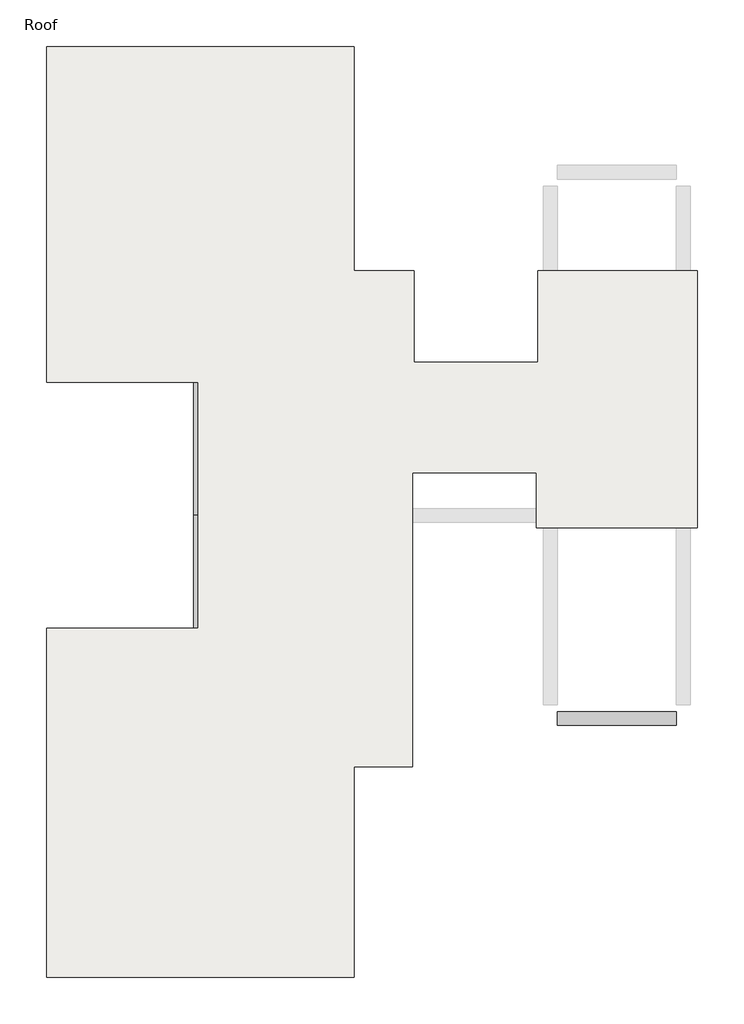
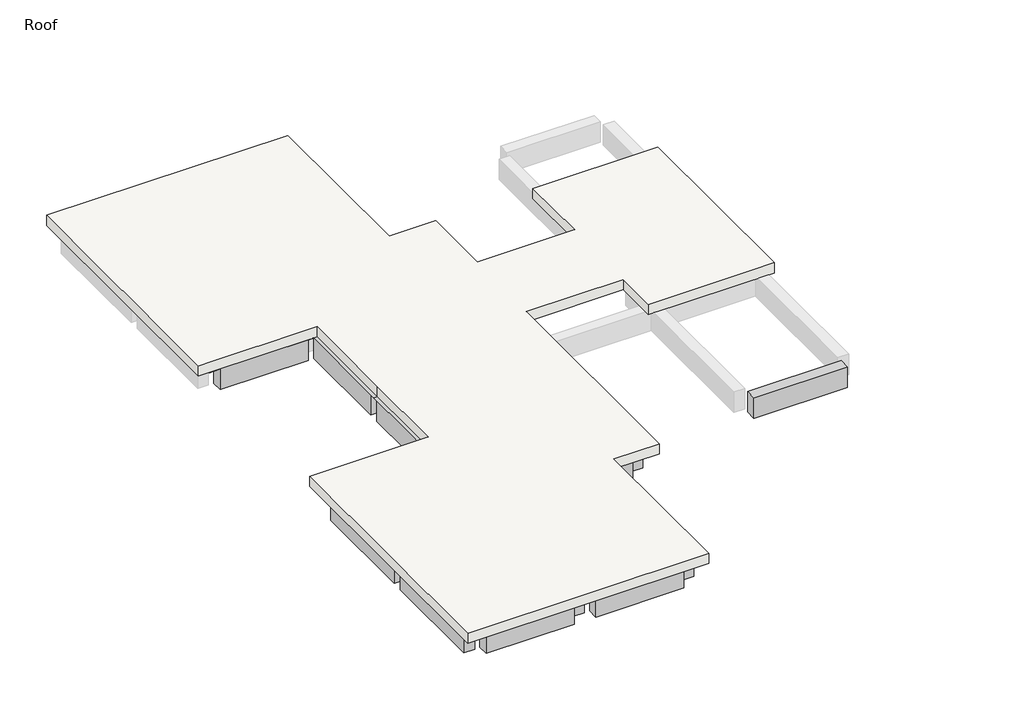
# One storey, part 1 of 2: 19 beams, 1 slab.
"""IFC4 building model written with IfcOpenShell, lengths in millimetres."""

import ifcopenshell
import ifcopenshell.guid

model = None  # the IFC model being written
_history = None  # IfcOwnerHistory: only IFC2X3 demands one
_inside = {}  # id of a spatial element -> (the spatial element, [elements in it])
_under = {}  # id of a project, library or spatial element -> (it, [spatial elements below it])
_declared = {}  # id of a project -> (the project, [libraries it declares])
_typed = {}  # id of a type object -> (the type object, [elements of that type])
_made_of = {}  # id of a material, layer set ... -> (it, [elements and type objects made of it])


def new_model(schema):
    """Start an empty IFC model of exactly this schema.

    Asked for "IFC4X3", IfcOpenShell would pick the latest addendum, in which some entities
    have other attributes; the version numbers below select the first issue.
    IFC2X3 requires an IfcOwnerHistory on every rooted entity: one is made here for all.
    """
    global model, _history
    if schema == "IFC4X3":
        model = ifcopenshell.file(schema_version=(4, 3, 0, 0))
    else:
        model = ifcopenshell.file(schema=schema)
    _inside.clear()
    _under.clear()
    _declared.clear()
    _typed.clear()
    _made_of.clear()
    _history = None
    if model.schema == "IFC2X3":
        org = make("IfcOrganization", Name="unknown")
        user = make(
            "IfcPersonAndOrganization",
            ThePerson=make("IfcPerson", FamilyName="unknown"),
            TheOrganization=org,
        )
        app = make(
            "IfcApplication",
            ApplicationDeveloper=org,
            Version="unknown",
            ApplicationFullName="unknown",
            ApplicationIdentifier="unknown",
        )
        _history = make(
            "IfcOwnerHistory",
            OwningUser=user,
            OwningApplication=app,
            ChangeAction="ADDED",
            CreationDate=0,
        )
    return model


def make(cls, **values):
    """One entity of the class cls with the attributes given. An attribute that is None is left unset."""
    return model.create_entity(
        cls, **{name: value for name, value in values.items() if value is not None}
    )


def rooted(cls, **values):
    """An entity with a GlobalId (a new one), such as an element, a storey or a relation."""
    return make(cls, GlobalId=ifcopenshell.guid.new(), OwnerHistory=_history, **values)


def si_unit(unit_type, name, prefix=None):
    """IfcSIUnit, for example si_unit("LENGTHUNIT", "METRE", prefix="MILLI")."""
    return make("IfcSIUnit", UnitType=unit_type, Prefix=prefix, Name=name)


def assignment(units):
    """IfcUnitAssignment: the units of a project."""
    return None if units is None else make("IfcUnitAssignment", Units=units)


def point(xyz):
    """IfcCartesianPoint."""
    return None if xyz is None else make("IfcCartesianPoint", Coordinates=xyz)


def direction(xyz):
    """IfcDirection."""
    return None if xyz is None else make("IfcDirection", DirectionRatios=xyz)


def frame(location, z_axis=None, x_axis=None):
    """IfcAxis2Placement3D, a coordinate frame: its origin and axes. An axis left out is left unset."""
    return make(
        "IfcAxis2Placement3D",
        Location=point(location),
        Axis=direction(z_axis),
        RefDirection=direction(x_axis),
    )


def origin():
    """The frame at (0, 0, 0) with its axes left unset."""
    return frame((0.0, 0.0, 0.0))


def place(relative_to, where):
    """IfcLocalPlacement: puts the frame where relative to a parent placement (None: the world)."""
    return make(
        "IfcLocalPlacement", PlacementRelTo=relative_to, RelativePlacement=where
    )


def context(
    kind, dimensions, precision=None, world=None, true_north=None, identifier=None
):
    """IfcGeometricRepresentationContext, for example the 3D "Model" context."""
    return make(
        "IfcGeometricRepresentationContext",
        ContextIdentifier=identifier,
        ContextType=kind,
        CoordinateSpaceDimension=dimensions,
        Precision=precision,
        WorldCoordinateSystem=world,
        TrueNorth=true_north,
    )


def project(units=None, contexts=None):
    """IfcProject with its units and contexts."""
    return rooted(
        "IfcProject",
        Name="project",
        RepresentationContexts=contexts,
        UnitsInContext=assignment(units),
    )


def spatial(cls, under=None, at=None, **own):
    """A site, building, storey or space (cls), placed at a placement, below another one or the project."""
    s = rooted(cls, ObjectPlacement=at, **own)
    if under is not None:
        _under.setdefault(under.id(), (under, []))[1].append(s)
    return s


def polyline(points):
    """IfcPolyline through the points."""
    return make("IfcPolyline", Points=[point(p) for p in points])


def outline(outer, holes=None, kind="AREA"):
    """IfcArbitraryClosedProfileDef: a profile drawn as a closed curve; with holes, ...WithVoids."""
    if holes is None:
        return make("IfcArbitraryClosedProfileDef", ProfileType=kind, OuterCurve=outer)
    return make(
        "IfcArbitraryProfileDefWithVoids",
        ProfileType=kind,
        OuterCurve=outer,
        InnerCurves=holes,
    )


def extrude(swept, where, along, depth):
    """IfcExtrudedAreaSolid: the profile swept, set in the frame where, extruded along a direction by depth."""
    return make(
        "IfcExtrudedAreaSolid",
        SweptArea=swept,
        Position=where,
        ExtrudedDirection=direction(along),
        Depth=depth,
    )


def faces_of(points, faces, orient=None, outer=None):
    """IfcFace entities. A face is a list of loops; a loop is a list of indices into points, from 0.

    orient and outer hold one flag for each loop. By default every Orientation is true, the
    first loop of a face is its IfcFaceOuterBound and the others are IfcFaceBound.
    """
    made = []
    for i, loops in enumerate(faces):
        bounds = []
        for j, loop in enumerate(loops):
            is_outer = j == 0 if outer is None else outer[i][j]
            bounds.append(
                make(
                    "IfcFaceOuterBound" if is_outer else "IfcFaceBound",
                    Bound=make("IfcPolyLoop", Polygon=[points[k] for k in loop]),
                    Orientation=True if orient is None else orient[i][j],
                )
            )
        made.append(make("IfcFace", Bounds=bounds))
    return made


def faceted_brep(points, faces, orient=None, outer=None, voids=None):
    """IfcFacetedBrep: a solid bounded by flat faces; with voids (closed shells), ...WithVoids."""
    shared = [point(p) for p in points]
    hull = make("IfcClosedShell", CfsFaces=faces_of(shared, faces, orient, outer))
    if voids is None:
        return make("IfcFacetedBrep", Outer=hull)
    return make(
        "IfcFacetedBrepWithVoids",
        Outer=hull,
        Voids=[
            make(cls, CfsFaces=faces_of(shared, fs, o, b)) for cls, fs, o, b in voids
        ],
    )


def shape(context_of_items, identifier, shape_type, items):
    """IfcShapeRepresentation: the items that make up one representation, for example the "Body"."""
    return make(
        "IfcShapeRepresentation",
        ContextOfItems=context_of_items,
        RepresentationIdentifier=identifier,
        RepresentationType=shape_type,
        Items=items,
    )


def made_of(thing, what):
    """Note that an element or type object is made of a material, layer set ...; save() writes the relation."""
    if what is not None:
        _made_of.setdefault(what.id(), (what, []))[1].append(thing)
    return thing


def element(
    cls,
    number,
    at=None,
    inside=None,
    cuts=None,
    type_object=None,
    material=None,
    context=None,
    identifier="Body",
    shape_type=None,
    held_by="IfcProductDefinitionShape",
    body=None,
    shapes=None,
    **own,
):
    """One element of the class cls, such as IfcWall. Its Tag is "e" and its number.

    at: its placement. inside: the storey or other place that contains it. cuts: it is an
    opening in that element (IfcRelVoidsElement). A single representation is given by context,
    identifier, shape_type and body (its items); several are given by shapes. held_by: the class
    of the entity that holds the representations. save() writes the other relations.
    """
    e = rooted(cls, Tag="e%d" % number, ObjectPlacement=at, **own)
    if body is not None:
        shapes = [shape(context, identifier, shape_type, body)]
    if shapes is not None:
        e.Representation = make(held_by, Representations=shapes)
    if inside is not None:
        _inside.setdefault(inside.id(), (inside, []))[1].append(e)
    if cuts is not None:
        rooted(
            "IfcRelVoidsElement", RelatingBuildingElement=cuts, RelatedOpeningElement=e
        )
    if type_object is not None:
        _typed.setdefault(type_object.id(), (type_object, []))[1].append(e)
    return made_of(e, material)


def aggregate(whole, parts):
    """IfcRelAggregates: a whole, such as a stair, and the parts it consists of."""
    return rooted("IfcRelAggregates", RelatingObject=whole, RelatedObjects=parts)


def save(model, path):
    """Write the relations noted so far, then the file.

    IfcRelAggregates (storeys below a building ...), IfcRelContainedInSpatialStructure (elements
    in a storey), IfcRelDefinesByType, IfcRelAssociatesMaterial and IfcRelDeclares: one each for
    every whole, place, type object, material and project.
    """
    for whole, parts in _under.values():
        aggregate(whole, parts)
    for where, things in _inside.values():
        rooted(
            "IfcRelContainedInSpatialStructure",
            RelatedElements=things,
            RelatingStructure=where,
        )
    for kind, things in _typed.values():
        rooted("IfcRelDefinesByType", RelatedObjects=things, RelatingType=kind)
    for what, things in _made_of.values():
        rooted("IfcRelAssociatesMaterial", RelatedObjects=things, RelatingMaterial=what)
    for by, libraries in _declared.values():
        rooted("IfcRelDeclares", RelatingContext=by, RelatedDefinitions=libraries)
    model.write(path)


model = new_model("IFC4")

# Units and contexts
model_context = context("Model", 3, world=origin())
ifc_project = project(units=[si_unit("LENGTHUNIT", "METRE", prefix="MILLI")], contexts=[model_context])

# Site, building, storey
site = spatial("IfcSite", under=ifc_project)
building = spatial("IfcBuilding", under=site)
storey = spatial("IfcBuildingStorey", under=building, Name="Roof", Elevation=7620.0)

# Beams
placement = place(None, origin())
element("IfcBeam", 1, ObjectType="M_Concrete-Rectangular Beam : 300 x 600mm", at=placement, inside=storey, context=model_context, shape_type="Brep", body=[
    faceted_brep([(-9933.3472303, 7869.016665, 7320.0), (-9933.3472303, 7719.016665, 7320.0), (-9933.3472303, 4821.016665, 7320.0), (-9783.3472303, 4821.016665, 7320.0), (-9783.3472303, 4971.016665, 7320.0), (-9633.3472303, 4971.016665, 7320.0), (-9633.3472303, 7719.016665, 7320.0), (-9633.3472303, 7869.016665, 7320.0), (-9783.3472303, 7869.016665, 7320.0), (-9633.3472303, 7719.016665, 6720.0), (-9633.3472303, 7719.016665, 7315.2), (-9633.3472303, 7869.016665, 7315.2), (-9633.3472303, 4971.016665, 6720.0), (-9933.3472303, 4971.016665, 6720.0), (-9933.3472303, 7719.016665, 6720.0), (-9933.3472303, 7869.016665, 7315.2), (-9933.3472303, 7719.016665, 7315.2), (-9933.3472303, 4971.016665, 7315.2), (-9933.3472303, 4821.016665, 7315.2), (-9783.3472303, 4971.016665, 7315.2), (-9783.3472303, 7869.016665, 7315.2), (-9783.3472303, 4821.016665, 7315.2)], [[[0, 1, 2, 3, 4, 5, 6, 7, 8]], [[9, 10, 11, 7, 6, 5, 12]], [[12, 13, 14, 9]], [[2, 1, 0, 15, 16, 14, 13, 17, 18]], [[5, 4, 19, 17, 13, 12]], [[16, 10, 9, 14]], [[10, 16, 15, 20, 11]], [[17, 19, 21, 18]], [[0, 8, 7, 11, 20, 15]], [[3, 2, 18, 21]], [[4, 3, 21, 19]]]),
])
element("IfcBeam", 2, ObjectType="M_Concrete-Rectangular Beam : 300 x 600mm", at=placement, inside=storey, context=model_context, shape_type="Brep", body=[
    faceted_brep([(-12681.3472303, 8019.016665, 7320.0), (-12681.3472303, 7869.016665, 7320.0), (-12831.3472303, 7869.016665, 7320.0), (-12831.3472303, 7719.016665, 7320.0), (-9933.3472303, 7719.016665, 7320.0), (-9933.3472303, 7869.016665, 7320.0), (-9933.3472303, 8019.016665, 7320.0), (-12531.3472303, 7719.016665, 7315.2), (-12531.3472303, 7719.016665, 6720.0), (-10083.3472303, 7719.016665, 6720.0), (-10083.3472303, 7719.016665, 7315.2), (-9933.3472303, 7719.016665, 7315.2), (-12831.3472303, 7719.016665, 7315.2), (-12531.3472303, 8019.016665, 6720.0), (-10083.3472303, 8019.016665, 6720.0), (-12681.3472303, 8019.016665, 7315.2), (-9933.3472303, 8019.016665, 7315.2), (-10083.3472303, 8019.016665, 7315.2), (-12531.3472303, 8019.016665, 7315.2), (-9933.3472303, 7869.016665, 7315.2), (-12681.3472303, 7869.016665, 7315.2), (-12831.3472303, 7869.016665, 7315.2)], [[[0, 1, 2, 3, 4, 5, 6]], [[7, 8, 9, 10, 11, 4, 3, 12]], [[8, 13, 14, 9]], [[15, 0, 6, 16, 17, 14, 13, 18]], [[6, 5, 4, 11, 19, 16]], [[1, 0, 15, 20]], [[7, 18, 13, 8]], [[18, 7, 12, 21, 20, 15]], [[17, 10, 9, 14]], [[10, 17, 16, 19, 11]], [[3, 2, 21, 12]], [[2, 1, 20, 21]]]),
])
element("IfcBeam", 3, ObjectType="M_Concrete-Rectangular Beam : 300 x 600mm", at=placement, inside=storey, context=model_context, shape_type="Brep", body=[
    faceted_brep([(-5366.3472303, 1773.016665, 7320.0), (-5366.3472303, 4671.016665, 7320.0), (-5366.3472303, 4821.016665, 7320.0), (-5516.3472303, 4821.016665, 7320.0), (-5516.3472303, 4671.016665, 7320.0), (-5666.3472303, 4671.016665, 7320.0), (-5666.3472303, 1923.016665, 7320.0), (-5666.3472303, 1773.016665, 7320.0), (-5516.3472303, 1773.016665, 7320.0), (-5666.3472303, 4671.016665, 6720.0), (-5666.3472303, 1923.016665, 6720.0), (-5666.3472303, 1923.016665, 7315.2), (-5666.3472303, 1773.016665, 7315.2), (-5366.3472303, 4671.016665, 6720.0), (-5366.3472303, 1923.016665, 6720.0), (-5366.3472303, 1773.016665, 7315.2), (-5366.3472303, 1923.016665, 7315.2), (-5366.3472303, 4671.016665, 7315.2), (-5366.3472303, 4821.016665, 7315.2), (-5516.3472303, 4671.016665, 7315.2), (-5516.3472303, 4821.016665, 7315.2), (-5516.3472303, 1773.016665, 7315.2)], [[[0, 1, 2, 3, 4, 5, 6, 7, 8]], [[7, 6, 5, 9, 10, 11, 12]], [[9, 13, 14, 10]], [[2, 1, 0, 15, 16, 14, 13, 17, 18]], [[5, 4, 19, 17, 13, 9]], [[17, 19, 20, 18]], [[16, 11, 10, 14]], [[11, 16, 15, 21, 12]], [[3, 2, 18, 20]], [[0, 8, 7, 12, 21, 15]], [[4, 3, 20, 19]]]),
])
element("IfcBeam", 4, ObjectType="M_Concrete-Rectangular Beam : 300 x 600mm", at=placement, inside=storey, context=model_context, shape_type="Brep", body=[
    faceted_brep([(-9783.3472303, 1623.016665, 7320.0), (-9633.3472303, 1623.016665, 7320.0), (-5666.3472303, 1623.016665, 7320.0), (-5516.3472303, 1623.016665, 7320.0), (-5516.3472303, 1773.016665, 7320.0), (-5666.3472303, 1773.016665, 7320.0), (-5666.3472303, 1923.016665, 7320.0), (-9633.3472303, 1923.016665, 7320.0), (-9783.3472303, 1923.016665, 7320.0), (-9783.3472303, 1773.016665, 7320.0), (-9483.3472303, 1923.016665, 6720.0), (-9483.3472303, 1923.016665, 7315.2), (-9783.3472303, 1923.016665, 7315.2), (-5666.3472303, 1923.016665, 7315.2), (-5816.3472303, 1923.016665, 7315.2), (-5816.3472303, 1923.016665, 6720.0), (-9483.3472303, 1623.016665, 6720.0), (-5816.3472303, 1623.016665, 6720.0), (-9783.3472303, 1623.016665, 7315.2), (-9483.3472303, 1623.016665, 7315.2), (-5816.3472303, 1623.016665, 7315.2), (-5516.3472303, 1623.016665, 7315.2), (-5666.3472303, 1773.016665, 7315.2), (-9783.3472303, 1773.016665, 7315.2), (-5516.3472303, 1773.016665, 7315.2)], [[[0, 1, 2, 3, 4, 5, 6, 7, 8, 9]], [[10, 11, 12, 8, 7, 6, 13, 14, 15]], [[16, 10, 15, 17]], [[3, 2, 1, 0, 18, 19, 16, 17, 20, 21]], [[6, 5, 22, 13]], [[19, 11, 10, 16]], [[11, 19, 18, 23, 12]], [[14, 20, 17, 15]], [[20, 14, 13, 22, 24, 21]], [[0, 9, 8, 12, 23, 18]], [[4, 3, 21, 24]], [[5, 4, 24, 22]]]),
])
element("IfcBeam", 5, ObjectType="M_Concrete-Rectangular Beam : 300 x 600mm", at=placement, inside=storey, context=model_context, shape_type="Brep", body=[
    faceted_brep([(-9933.3472303, 4821.016665, 7320.0), (-9933.3472303, 1923.016665, 7320.0), (-9933.3472303, 1773.016665, 7320.0), (-9783.3472303, 1773.016665, 7320.0), (-9783.3472303, 1923.016665, 7320.0), (-9633.3472303, 1923.016665, 7320.0), (-9633.3472303, 4671.016665, 7320.0), (-9783.3472303, 4671.016665, 7320.0), (-9783.3472303, 4821.016665, 7320.0), (-9633.3472303, 1923.016665, 6720.0), (-9633.3472303, 4671.016665, 6720.0), (-9933.3472303, 1923.016665, 6720.0), (-9933.3472303, 4671.016665, 6720.0), (-9933.3472303, 4821.016665, 7315.2), (-9933.3472303, 4671.016665, 7315.2), (-9933.3472303, 1923.016665, 7315.2), (-9933.3472303, 1773.016665, 7315.2), (-9783.3472303, 4671.016665, 7315.2), (-9783.3472303, 1923.016665, 7315.2), (-9783.3472303, 4821.016665, 7315.2), (-9783.3472303, 1773.016665, 7315.2)], [[[0, 1, 2, 3, 4, 5, 6, 7, 8]], [[6, 5, 9, 10]], [[9, 11, 12, 10]], [[2, 1, 0, 13, 14, 12, 11, 15, 16]], [[7, 6, 10, 12, 14, 17]], [[5, 4, 18, 15, 11, 9]], [[17, 14, 13, 19]], [[15, 18, 20, 16]], [[0, 8, 19, 13]], [[3, 2, 16, 20]], [[8, 7, 17, 19]], [[4, 3, 20, 18]]]),
])
element("IfcBeam", 6, ObjectType="M_Concrete-Rectangular Beam : 300 x 600mm", at=placement, inside=storey, context=model_context, shape_type="Brep", body=[
    faceted_brep([(-5366.3472303, -360.983335, 7320.0), (-5366.3472303, 1773.016665, 7320.0), (-5516.3472303, 1773.016665, 7320.0), (-5516.3472303, 1623.016665, 7320.0), (-5666.3472303, 1623.016665, 7320.0), (-5666.3472303, -210.983335, 7320.0), (-5666.3472303, -360.983335, 7320.0), (-5516.3472303, -360.983335, 7320.0), (-5666.3472303, 1623.016665, 6720.0), (-5666.3472303, -210.983335, 6720.0), (-5666.3472303, -210.983335, 7315.2), (-5666.3472303, -360.983335, 7315.2), (-5366.3472303, 1623.016665, 6720.0), (-5366.3472303, -210.983335, 6720.0), (-5366.3472303, -360.983335, 7315.2), (-5366.3472303, -210.983335, 7315.2), (-5366.3472303, 1623.016665, 7315.2), (-5366.3472303, 1773.016665, 7315.2), (-5516.3472303, 1623.016665, 7315.2), (-5516.3472303, 1773.016665, 7315.2), (-5516.3472303, -360.983335, 7315.2)], [[[0, 1, 2, 3, 4, 5, 6, 7]], [[6, 5, 4, 8, 9, 10, 11]], [[8, 12, 13, 9]], [[1, 0, 14, 15, 13, 12, 16, 17]], [[4, 3, 18, 16, 12, 8]], [[16, 18, 19, 17]], [[15, 10, 9, 13]], [[10, 15, 14, 20, 11]], [[2, 1, 17, 19]], [[0, 7, 6, 11, 20, 14]], [[3, 2, 19, 18]]]),
])
element("IfcBeam", 7, ObjectType="M_Concrete-Rectangular Beam : 300 x 600mm", at=placement, inside=storey, context=model_context, shape_type="Brep", body=[
    faceted_brep([(-6885.3472303, -510.983335, 7320.0), (-6585.3472303, -510.983335, 7320.0), (-5516.3472303, -510.983335, 7320.0), (-5516.3472303, -360.983335, 7320.0), (-5666.3472303, -360.983335, 7320.0), (-5666.3472303, -210.983335, 7320.0), (-6885.3472303, -210.983335, 7320.0), (-6885.3472303, -210.983335, 6720.0), (-5666.3472303, -210.983335, 7315.2), (-5816.3472303, -210.983335, 7315.2), (-5816.3472303, -210.983335, 6720.0), (-6885.3472303, -510.983335, 6720.0), (-5816.3472303, -510.983335, 6720.0), (-6585.3472303, -510.983335, 6720.0), (-5816.3472303, -510.983335, 7315.2), (-5516.3472303, -510.983335, 7315.2), (-5516.3472303, -360.983335, 7315.2), (-5666.3472303, -360.983335, 7315.2)], [[[0, 1, 2, 3, 4, 5, 6]], [[7, 6, 5, 8, 9, 10]], [[11, 7, 10, 12, 13]], [[2, 1, 0, 11, 13, 12, 14, 15]], [[3, 2, 15, 16]], [[0, 6, 7, 11]], [[5, 4, 17, 8]], [[4, 3, 16, 17]], [[9, 14, 12, 10]], [[14, 9, 8, 17, 16, 15]]]),
])
element("IfcBeam", 8, ObjectType="M_Concrete-Rectangular Beam : 300 x 600mm", at=placement, inside=storey, context=model_context, shape_type="Brep", body=[
    faceted_brep([(-6885.3472303, -1579.983335, 7320.0), (-6735.3472303, -1579.983335, 7320.0), (-6585.3472303, -1579.983335, 7320.0), (-6585.3472303, -510.983335, 7320.0), (-6885.3472303, -510.983335, 7320.0), (-6885.3472303, -1429.983335, 7320.0), (-6885.3472303, -510.983335, 6720.0), (-6885.3472303, -1429.983335, 6720.0), (-6885.3472303, -1429.983335, 7315.2), (-6885.3472303, -1579.983335, 7315.2), (-6585.3472303, -510.983335, 6720.0), (-6585.3472303, -1429.983335, 6720.0), (-6585.3472303, -1579.983335, 7315.2), (-6585.3472303, -1429.983335, 7315.2), (-6735.3472303, -1579.983335, 7315.2)], [[[0, 1, 2, 3, 4, 5]], [[0, 5, 4, 6, 7, 8, 9]], [[6, 10, 11, 7]], [[3, 2, 12, 13, 11, 10]], [[2, 1, 0, 9, 14, 12]], [[4, 3, 10, 6]], [[13, 8, 7, 11]], [[8, 13, 12, 14, 9]]]),
])
element("IfcBeam", 9, ObjectType="M_Concrete-Rectangular Beam : 300 x 600mm", at=placement, inside=storey, context=model_context, shape_type="Brep", body=[
    faceted_brep([(-6585.3472303, -4932.983335, 7320.0), (-6585.3472303, -1579.983335, 7320.0), (-6735.3472303, -1579.983335, 7320.0), (-6735.3472303, -1729.983335, 7320.0), (-6885.3472303, -1729.983335, 7320.0), (-6885.3472303, -4782.983335, 7320.0), (-6885.3472303, -4932.983335, 7320.0), (-6735.3472303, -4932.983335, 7320.0), (-6885.3472303, -1729.983335, 6720.0), (-6885.3472303, -4782.983335, 6720.0), (-6885.3472303, -4782.983335, 7315.2), (-6885.3472303, -4932.983335, 7315.2), (-6585.3472303, -1729.983335, 6720.0), (-6585.3472303, -4782.983335, 6720.0), (-6585.3472303, -4932.983335, 7315.2), (-6585.3472303, -4782.983335, 7315.2), (-6585.3472303, -1729.983335, 7315.2), (-6585.3472303, -1579.983335, 7315.2), (-6735.3472303, -1579.983335, 7315.2), (-6735.3472303, -4932.983335, 7315.2), (-6735.3472303, -1729.983335, 7315.2)], [[[0, 1, 2, 3, 4, 5, 6, 7]], [[4, 8, 9, 10, 11, 6, 5]], [[9, 8, 12, 13]], [[1, 0, 14, 15, 13, 12, 16, 17]], [[1, 17, 18, 2]], [[0, 7, 6, 11, 19, 14]], [[4, 3, 20, 16, 12, 8]], [[17, 16, 20, 18]], [[15, 10, 9, 13]], [[10, 15, 14, 19, 11]], [[20, 3, 2, 18]]]),
])
element("IfcBeam", 10, ObjectType="M_Concrete-Rectangular Beam : 300 x 600mm", at=placement, inside=storey, context=model_context, shape_type="Brep", body=[
    faceted_brep([(-9783.3472303, -5082.983335, 7320.0), (-6735.3472303, -5082.983335, 7320.0), (-6735.3472303, -4932.983335, 7320.0), (-6885.3472303, -4932.983335, 7320.0), (-6885.3472303, -4782.983335, 7320.0), (-9633.3472303, -4782.983335, 7320.0), (-9783.3472303, -4782.983335, 7320.0), (-9783.3472303, -4932.983335, 7320.0), (-9483.3472303, -4782.983335, 6720.0), (-9483.3472303, -4782.983335, 7315.2), (-9783.3472303, -4782.983335, 7315.2), (-6885.3472303, -4782.983335, 7315.2), (-7035.3472303, -4782.983335, 7315.2), (-7035.3472303, -4782.983335, 6720.0), (-9483.3472303, -5082.983335, 6720.0), (-7035.3472303, -5082.983335, 6720.0), (-9783.3472303, -5082.983335, 7315.2), (-9483.3472303, -5082.983335, 7315.2), (-7035.3472303, -5082.983335, 7315.2), (-6735.3472303, -5082.983335, 7315.2), (-6885.3472303, -4932.983335, 7315.2), (-9783.3472303, -4932.983335, 7315.2), (-6735.3472303, -4932.983335, 7315.2)], [[[0, 1, 2, 3, 4, 5, 6, 7]], [[8, 9, 10, 6, 5, 4, 11, 12, 13]], [[14, 8, 13, 15]], [[1, 0, 16, 17, 14, 15, 18, 19]], [[4, 3, 20, 11]], [[17, 9, 8, 14]], [[9, 17, 16, 21, 10]], [[12, 18, 15, 13]], [[18, 12, 11, 20, 22, 19]], [[0, 7, 6, 10, 21, 16]], [[2, 1, 19, 22]], [[3, 2, 22, 20]]]),
])
element("IfcBeam", 11, ObjectType="M_Concrete-Rectangular Beam : 300 x 600mm", at=placement, inside=storey, context=model_context, shape_type="Brep", body=[
    faceted_brep([(-9933.3472303, -1579.983335, 7320.0), (-9933.3472303, -1729.983335, 7320.0), (-9933.3472303, -4782.983335, 7320.0), (-9933.3472303, -4932.983335, 7320.0), (-9783.3472303, -4932.983335, 7320.0), (-9783.3472303, -4782.983335, 7320.0), (-9633.3472303, -4782.983335, 7320.0), (-9633.3472303, -1729.983335, 7320.0), (-9633.3472303, -1579.983335, 7320.0), (-9783.3472303, -1579.983335, 7320.0), (-9633.3472303, -4782.983335, 6720.0), (-9633.3472303, -1729.983335, 6720.0), (-9633.3472303, -1729.983335, 7315.2), (-9633.3472303, -1579.983335, 7315.2), (-9933.3472303, -4782.983335, 6720.0), (-9933.3472303, -1729.983335, 6720.0), (-9933.3472303, -1579.983335, 7315.2), (-9933.3472303, -1729.983335, 7315.2), (-9933.3472303, -4782.983335, 7315.2), (-9933.3472303, -4932.983335, 7315.2), (-9783.3472303, -1579.983335, 7315.2), (-9783.3472303, -4932.983335, 7315.2), (-9783.3472303, -4782.983335, 7315.2)], [[[0, 1, 2, 3, 4, 5, 6, 7, 8, 9]], [[8, 7, 6, 10, 11, 12, 13]], [[11, 10, 14, 15]], [[3, 2, 1, 0, 16, 17, 15, 14, 18, 19]], [[0, 9, 8, 13, 20, 16]], [[4, 3, 19, 21]], [[6, 5, 22, 18, 14, 10]], [[5, 4, 21, 22]], [[17, 12, 11, 15]], [[12, 17, 16, 20, 13]], [[18, 22, 21, 19]]]),
])
element("IfcBeam", 12, ObjectType="M_Concrete-Rectangular Beam : 300 x 600mm", at=placement, inside=storey, context=model_context, shape_type="Brep", body=[
    faceted_brep([(-6885.3472303, -1579.983335, 7320.0), (-6885.3472303, -1429.983335, 7320.0), (-9633.3472303, -1429.983335, 7320.0), (-9783.3472303, -1429.983335, 7320.0), (-9783.3472303, -1579.983335, 7320.0), (-9633.3472303, -1579.983335, 7320.0), (-9633.3472303, -1729.983335, 7320.0), (-6885.3472303, -1729.983335, 7320.0), (-6735.3472303, -1729.983335, 7320.0), (-6735.3472303, -1579.983335, 7320.0), (-9633.3472303, -1729.983335, 7315.2), (-9483.3472303, -1729.983335, 7315.2), (-9483.3472303, -1729.983335, 6720.0), (-7035.3472303, -1729.983335, 6720.0), (-7035.3472303, -1729.983335, 7315.2), (-6735.3472303, -1729.983335, 7315.2), (-9483.3472303, -1429.983335, 6720.0), (-7035.3472303, -1429.983335, 6720.0), (-9483.3472303, -1429.983335, 7315.2), (-9783.3472303, -1429.983335, 7315.2), (-6885.3472303, -1429.983335, 7315.2), (-7035.3472303, -1429.983335, 7315.2), (-6885.3472303, -1579.983335, 7315.2), (-9633.3472303, -1579.983335, 7315.2), (-9783.3472303, -1579.983335, 7315.2), (-6735.3472303, -1579.983335, 7315.2)], [[[0, 1, 2, 3, 4, 5, 6, 7, 8, 9]], [[6, 10, 11, 12, 13, 14, 15, 8, 7]], [[12, 16, 17, 13]], [[16, 18, 19, 3, 2, 1, 20, 21, 17]], [[1, 0, 22, 20]], [[6, 5, 23, 10]], [[11, 18, 16, 12]], [[18, 11, 10, 23, 24, 19]], [[21, 14, 13, 17]], [[14, 21, 20, 22, 25, 15]], [[4, 3, 19, 24]], [[9, 8, 15, 25]], [[0, 9, 25, 22]], [[5, 4, 24, 23]]]),
])
element("IfcBeam", 13, ObjectType="M_Concrete-Rectangular Beam : 300 x 600mm", at=placement, inside=storey, context=model_context, shape_type="Brep", body=[
    faceted_brep([(-9933.3472303, 1773.016665, 7320.0), (-9933.3472303, 1623.016665, 7320.0), (-9933.3472303, -1429.983335, 7320.0), (-9933.3472303, -1579.983335, 7320.0), (-9783.3472303, -1579.983335, 7320.0), (-9783.3472303, -1429.983335, 7320.0), (-9633.3472303, -1429.983335, 7320.0), (-9633.3472303, 1623.016665, 7320.0), (-9783.3472303, 1623.016665, 7320.0), (-9783.3472303, 1773.016665, 7320.0), (-9633.3472303, -1429.983335, 6720.0), (-9633.3472303, 1623.016665, 6720.0), (-9933.3472303, -1429.983335, 6720.0), (-9933.3472303, 1623.016665, 6720.0), (-9933.3472303, 1773.016665, 7315.2), (-9933.3472303, 1623.016665, 7315.2), (-9933.3472303, -1429.983335, 7315.2), (-9933.3472303, -1579.983335, 7315.2), (-9783.3472303, 1773.016665, 7315.2), (-9783.3472303, -1579.983335, 7315.2), (-9783.3472303, 1623.016665, 7315.2), (-9783.3472303, -1429.983335, 7315.2)], [[[0, 1, 2, 3, 4, 5, 6, 7, 8, 9]], [[7, 6, 10, 11]], [[11, 10, 12, 13]], [[3, 2, 1, 0, 14, 15, 13, 12, 16, 17]], [[0, 9, 18, 14]], [[4, 3, 17, 19]], [[8, 7, 11, 13, 15, 20]], [[9, 8, 20, 18]], [[6, 5, 21, 16, 12, 10]], [[5, 4, 19, 21]], [[20, 15, 14, 18]], [[16, 21, 19, 17]]]),
])
element("IfcBeam", 14, ObjectType="M_Concrete-Rectangular Beam : 300 x 600mm", at=placement, inside=storey, context=model_context, shape_type="Brep", body=[
    faceted_brep([(-12831.3472303, -5082.983335, 7320.0), (-9783.3472303, -5082.983335, 7320.0), (-9783.3472303, -4932.983335, 7320.0), (-9933.3472303, -4932.983335, 7320.0), (-9933.3472303, -4782.983335, 7320.0), (-12681.3472303, -4782.983335, 7320.0), (-12831.3472303, -4782.983335, 7320.0), (-12831.3472303, -4932.983335, 7320.0), (-12531.3472303, -4782.983335, 6720.0), (-12531.3472303, -4782.983335, 7315.2), (-12831.3472303, -4782.983335, 7315.2), (-9933.3472303, -4782.983335, 7315.2), (-10083.3472303, -4782.983335, 7315.2), (-10083.3472303, -4782.983335, 6720.0), (-12531.3472303, -5082.983335, 6720.0), (-10083.3472303, -5082.983335, 6720.0), (-12831.3472303, -5082.983335, 7315.2), (-12531.3472303, -5082.983335, 7315.2), (-10083.3472303, -5082.983335, 7315.2), (-9783.3472303, -5082.983335, 7315.2), (-9933.3472303, -4932.983335, 7315.2), (-12831.3472303, -4932.983335, 7315.2), (-9783.3472303, -4932.983335, 7315.2)], [[[0, 1, 2, 3, 4, 5, 6, 7]], [[8, 9, 10, 6, 5, 4, 11, 12, 13]], [[14, 8, 13, 15]], [[1, 0, 16, 17, 14, 15, 18, 19]], [[4, 3, 20, 11]], [[17, 9, 8, 14]], [[9, 17, 16, 21, 10]], [[12, 18, 15, 13]], [[18, 12, 11, 20, 22, 19]], [[0, 7, 6, 10, 21, 16]], [[2, 1, 19, 22]], [[3, 2, 22, 20]]]),
])
element("IfcBeam", 15, ObjectType="M_Concrete-Rectangular Beam : 300 x 600mm", at=placement, inside=storey, context=model_context, shape_type="Brep", body=[
    faceted_brep([(-12981.3472303, -1579.983335, 7320.0), (-12981.3472303, -4932.983335, 7320.0), (-12831.3472303, -4932.983335, 7320.0), (-12831.3472303, -4782.983335, 7320.0), (-12681.3472303, -4782.983335, 7320.0), (-12681.3472303, -1729.983335, 7320.0), (-12681.3472303, -1579.983335, 7320.0), (-12831.3472303, -1579.983335, 7320.0), (-12681.3472303, -4782.983335, 6720.0), (-12681.3472303, -1729.983335, 6720.0), (-12681.3472303, -1729.983335, 7315.2), (-12681.3472303, -1579.983335, 7315.2), (-12981.3472303, -4782.983335, 6720.0), (-12981.3472303, -1729.983335, 6720.0), (-12981.3472303, -1579.983335, 7315.2), (-12981.3472303, -1729.983335, 7315.2), (-12981.3472303, -4782.983335, 7315.2), (-12981.3472303, -4932.983335, 7315.2), (-12831.3472303, -1579.983335, 7315.2), (-12831.3472303, -4932.983335, 7315.2), (-12831.3472303, -4782.983335, 7315.2)], [[[0, 1, 2, 3, 4, 5, 6, 7]], [[6, 5, 4, 8, 9, 10, 11]], [[9, 8, 12, 13]], [[1, 0, 14, 15, 13, 12, 16, 17]], [[0, 7, 6, 11, 18, 14]], [[2, 1, 17, 19]], [[4, 3, 20, 16, 12, 8]], [[3, 2, 19, 20]], [[15, 10, 9, 13]], [[10, 15, 14, 18, 11]], [[16, 20, 19, 17]]]),
])
element("IfcBeam", 16, ObjectType="M_Concrete-Rectangular Beam : 300 x 600mm", at=placement, inside=storey, context=model_context, shape_type="Brep", body=[
    faceted_brep([(-12681.3472303, -1579.983335, 7320.0), (-12681.3472303, -1729.983335, 7320.0), (-9933.3472303, -1729.983335, 7320.0), (-9933.3472303, -1579.983335, 7320.0), (-9933.3472303, -1429.983335, 7320.0), (-12681.3472303, -1429.983335, 7320.0), (-12831.3472303, -1429.983335, 7320.0), (-12831.3472303, -1579.983335, 7320.0), (-12681.3472303, -1729.983335, 7315.2), (-12531.3472303, -1729.983335, 7315.2), (-12531.3472303, -1729.983335, 6720.0), (-10083.3472303, -1729.983335, 6720.0), (-10083.3472303, -1729.983335, 7315.2), (-9933.3472303, -1729.983335, 7315.2), (-12531.3472303, -1429.983335, 6720.0), (-10083.3472303, -1429.983335, 6720.0), (-12531.3472303, -1429.983335, 7315.2), (-12831.3472303, -1429.983335, 7315.2), (-9933.3472303, -1429.983335, 7315.2), (-10083.3472303, -1429.983335, 7315.2), (-9933.3472303, -1579.983335, 7315.2), (-12681.3472303, -1579.983335, 7315.2), (-12831.3472303, -1579.983335, 7315.2)], [[[0, 1, 2, 3, 4, 5, 6, 7]], [[1, 8, 9, 10, 11, 12, 13, 2]], [[10, 14, 15, 11]], [[14, 16, 17, 6, 5, 4, 18, 19, 15]], [[4, 3, 2, 13, 20, 18]], [[1, 0, 21, 8]], [[9, 16, 14, 10]], [[16, 9, 8, 21, 22, 17]], [[19, 12, 11, 15]], [[12, 19, 18, 20, 13]], [[7, 6, 17, 22]], [[0, 7, 22, 21]]]),
])
element("IfcBeam", 17, ObjectType="M_Concrete-Rectangular Beam : 300 x 600mm", at=placement, inside=storey, context=model_context, shape_type="Brep", body=[
    faceted_brep([(-12981.3472303, 1773.016665, 7320.0), (-12981.3472303, -1579.983335, 7320.0), (-12831.3472303, -1579.983335, 7320.0), (-12831.3472303, -1429.983335, 7320.0), (-12681.3472303, -1429.983335, 7320.0), (-12681.3472303, 1623.016665, 7320.0), (-12681.3472303, 1773.016665, 7320.0), (-12831.3472303, 1773.016665, 7320.0), (-12681.3472303, -1429.983335, 6720.0), (-12681.3472303, 1623.016665, 6720.0), (-12681.3472303, 1623.016665, 7315.2), (-12681.3472303, 1773.016665, 7315.2), (-12981.3472303, -1429.983335, 6720.0), (-12981.3472303, 1623.016665, 6720.0), (-12981.3472303, 1773.016665, 7315.2), (-12981.3472303, 1623.016665, 7315.2), (-12981.3472303, -1429.983335, 7315.2), (-12981.3472303, -1579.983335, 7315.2), (-12831.3472303, 1773.016665, 7315.2), (-12831.3472303, -1579.983335, 7315.2), (-12831.3472303, -1429.983335, 7315.2)], [[[0, 1, 2, 3, 4, 5, 6, 7]], [[6, 5, 4, 8, 9, 10, 11]], [[9, 8, 12, 13]], [[1, 0, 14, 15, 13, 12, 16, 17]], [[0, 7, 6, 11, 18, 14]], [[2, 1, 17, 19]], [[4, 3, 20, 16, 12, 8]], [[3, 2, 19, 20]], [[15, 10, 9, 13]], [[10, 15, 14, 18, 11]], [[16, 20, 19, 17]]]),
])
element("IfcBeam", 18, ObjectType="M_Concrete-Rectangular Beam : 300 x 600mm", at=placement, inside=storey, context=model_context, shape_type="Brep", body=[
    faceted_brep([(-12681.3472303, 1773.016665, 7320.0), (-12681.3472303, 1623.016665, 7320.0), (-9933.3472303, 1623.016665, 7320.0), (-9933.3472303, 1773.016665, 7320.0), (-9933.3472303, 1923.016665, 7320.0), (-12831.3472303, 1923.016665, 7320.0), (-12831.3472303, 1773.016665, 7320.0), (-12681.3472303, 1623.016665, 7315.2), (-12531.3472303, 1623.016665, 7315.2), (-12531.3472303, 1623.016665, 6720.0), (-10083.3472303, 1623.016665, 6720.0), (-10083.3472303, 1623.016665, 7315.2), (-9933.3472303, 1623.016665, 7315.2), (-12531.3472303, 1923.016665, 6720.0), (-10083.3472303, 1923.016665, 6720.0), (-12531.3472303, 1923.016665, 7315.2), (-12831.3472303, 1923.016665, 7315.2), (-9933.3472303, 1923.016665, 7315.2), (-10083.3472303, 1923.016665, 7315.2), (-9933.3472303, 1773.016665, 7315.2), (-12681.3472303, 1773.016665, 7315.2), (-12831.3472303, 1773.016665, 7315.2)], [[[0, 1, 2, 3, 4, 5, 6]], [[1, 7, 8, 9, 10, 11, 12, 2]], [[9, 13, 14, 10]], [[13, 15, 16, 5, 4, 17, 18, 14]], [[4, 3, 2, 12, 19, 17]], [[1, 0, 20, 7]], [[8, 15, 13, 9]], [[15, 8, 7, 20, 21, 16]], [[18, 11, 10, 14]], [[11, 18, 17, 19, 12]], [[6, 5, 16, 21]], [[0, 6, 21, 20]]]),
])
element("IfcBeam", 19, ObjectType="M_Concrete-Rectangular Beam : 300 x 600mm", at=placement, inside=storey, context=model_context, shape_type="SweptSolid", body=[
    extrude(outline(polyline([(-2013.3472303, 251.016665), (-2013.3472303, 551.016665), (582.6527697, 551.016665), (582.6527697, 251.016665), (-2013.3472303, 251.016665)])), frame((0.0, 0.0, 6720.0), z_axis=(0.0, 0.0, 1.0), x_axis=(1.0, 0.0, 0.0)), (0.0, 0.0, 1.0), 600.0),
])

# Slab
element("IfcSlab", 20, ObjectType="Generic 300mm", at=placement, inside=storey, context=model_context, shape_type="Brep", body=[
    faceted_brep([(-6435.3472303, 15026.016665, 7320.0), (-6435.3472303, 10150.016665, 7320.0), (-5135.3472303, 10150.016665, 7320.0), (-5135.3472303, 8150.016665, 7320.0), (-2435.3472303, 8150.016665, 7320.0), (-2435.3472303, 10150.016665, 7320.0), (1032.6527697, 10150.016665, 7320.0), (1032.6527697, 6190.016665, 7320.0), (1032.6527697, 5890.016665, 7320.0), (1032.6527697, 4550.016665, 7320.0), (-2467.3472303, 4550.016665, 7320.0), (-2467.3472303, 5750.016665, 7320.0), (-5167.3472303, 5750.016665, 7320.0), (-5167.3472303, -649.983335, 7320.0), (-6435.3472303, -649.983335, 7320.0), (-6435.3472303, -5232.983335, 7320.0), (-13135.3472303, -5232.983335, 7320.0), (-13135.3472303, 2367.016665, 7320.0), (-9835.3472303, 2367.016665, 7320.0), (-9835.3472303, 4821.016665, 7320.0), (-9835.3472303, 7721.016665, 7320.0), (-13131.3472303, 7721.016665, 7320.0), (-13131.3472303, 15026.016665, 7320.0), (-6435.3472303, 15026.016665, 7620.0), (-13131.3472303, 15026.016665, 7620.0), (-13131.3472303, 7721.016665, 7620.0), (-9835.3472303, 7721.016665, 7620.0), (-9835.3472303, 4821.016665, 7620.0), (-9835.3472303, 2367.016665, 7620.0), (-13135.3472303, 2367.016665, 7620.0), (-13135.3472303, -5232.983335, 7620.0), (-6435.3472303, -5232.983335, 7620.0), (-6435.3472303, -649.983335, 7620.0), (-5167.3472303, -649.983335, 7620.0), (-5167.3472303, 5750.016665, 7620.0), (-2467.3472303, 5750.016665, 7620.0), (-2467.3472303, 4550.016665, 7620.0), (1032.6527697, 4550.016665, 7620.0), (1032.6527697, 10150.016665, 7620.0), (-2435.3472303, 10150.016665, 7620.0), (-2435.3472303, 8150.016665, 7620.0), (-5135.3472303, 8150.016665, 7620.0), (-5135.3472303, 10150.016665, 7620.0), (-6435.3472303, 10150.016665, 7620.0)], [[[0, 1, 2, 3, 4, 5, 6, 7, 8, 9, 10, 11, 12, 13, 14, 15, 16, 17, 18, 19, 20, 21, 22]], [[23, 24, 25, 26, 27, 28, 29, 30, 31, 32, 33, 34, 35, 36, 37, 38, 39, 40, 41, 42, 43]], [[1, 0, 23, 43]], [[2, 1, 43, 42]], [[3, 2, 42, 41]], [[4, 3, 41, 40]], [[5, 4, 40, 39]], [[6, 5, 39, 38]], [[9, 8, 7, 6, 38, 37]], [[10, 9, 37, 36]], [[11, 10, 36, 35]], [[12, 11, 35, 34]], [[13, 12, 34, 33]], [[14, 13, 33, 32]], [[15, 14, 32, 31]], [[16, 15, 31, 30]], [[17, 16, 30, 29]], [[18, 17, 29, 28]], [[19, 18, 28, 27]], [[20, 19, 27, 26]], [[21, 20, 26, 25]], [[22, 21, 25, 24]], [[0, 22, 24, 23]]]),
])

save(model, "model.ifc")
